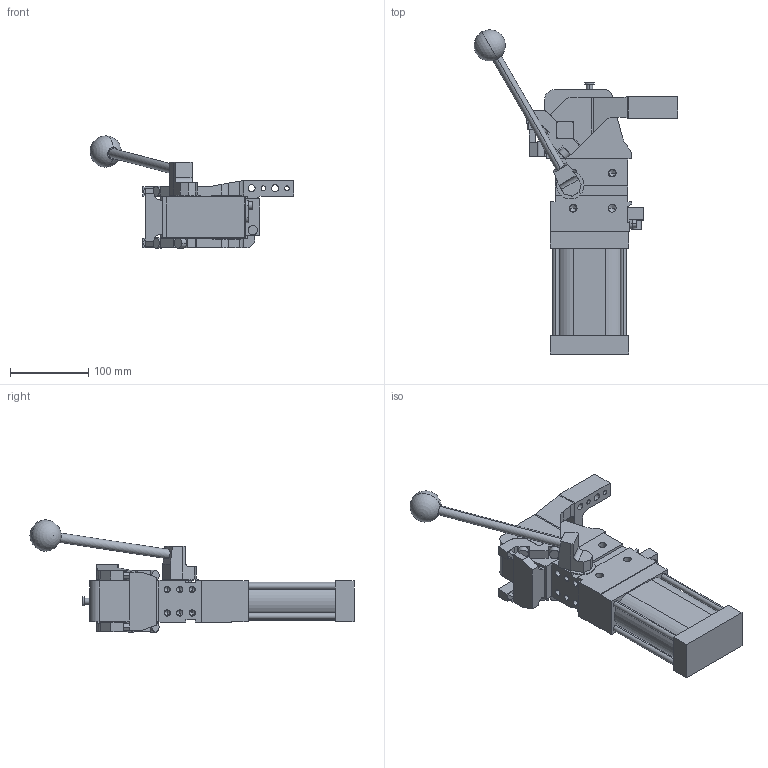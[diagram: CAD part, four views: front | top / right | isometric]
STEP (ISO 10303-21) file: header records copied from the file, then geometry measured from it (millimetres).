
FILE_DESCRIPTION (( 'STEP AP214' ), '1' );
FILE_NAME ('cplm63latv1ssi1g_16.STEP', '2023-01-26T14:48:12', ( '' ), ( '' ), 'SwSTEP 2.0', 'SolidWorks 2022', '' );
FILE_SCHEMA (( 'AUTOMOTIVE_DESIGN' ));
Length unit declared in the file: millimetre
Products named in the file (5): cplm63latv1ssi1g_16; leva_v1ss_cpl63t; meccanica_cplm_63_tassello_esterno; blocchetto_VEP_0; comando_manuale_cplm_63
Assembly tree (4 placements, depth 2):
  cplm63latv1ssi1g_16
    meccanica_cplm_63_tassello_esterno
    blocchetto_VEP_0
    leva_v1ss_cpl63t
    comando_manuale_cplm_63
Bounding box: 260.57 x 414.56 x 143.5 mm (x, y, z)
Volume: 1909083.1 mm3; surface area: 216496.8 mm2
Topology: 4 solids, 4 shells, 467 faces, 1233 edges, 769 vertices
Faces by surface type: plane 248, cylinder 167, cone 50, sphere 2
Entity records: 15710 total; most frequent: CARTESIAN_POINT 2524, DIRECTION 2488, ORIENTED_EDGE 2364, EDGE_CURVE 1182, AXIS2_PLACEMENT_3D 844, LINE 800, VECTOR 800, VERTEX_POINT 766
